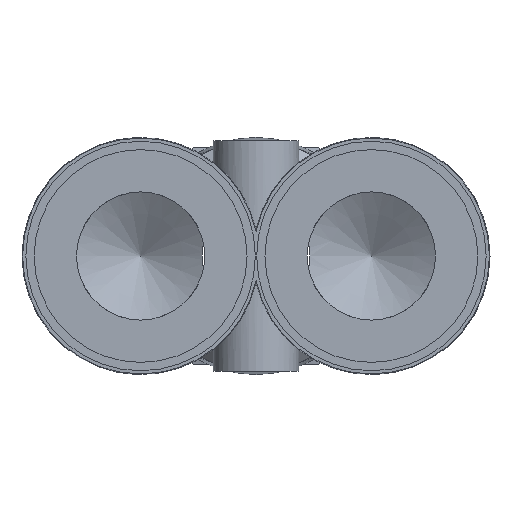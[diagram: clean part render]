
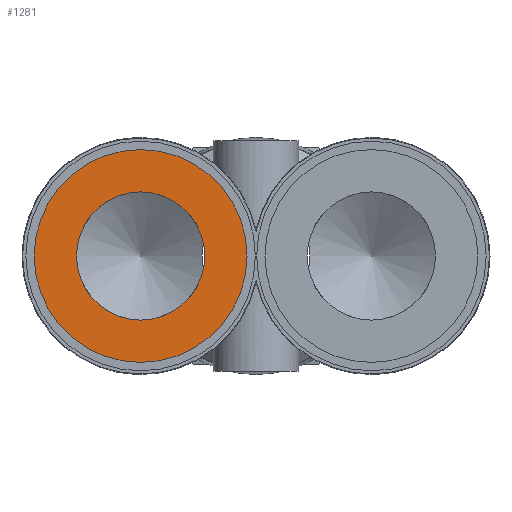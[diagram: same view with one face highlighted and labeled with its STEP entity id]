
A CAD part, front view. The second image highlights one B-rep face of the part: STEP entity #1281.
In plain terms, the highlighted planar face has unit normal (0, -1, 0).
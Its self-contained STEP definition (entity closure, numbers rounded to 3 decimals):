
#106=FACE_BOUND('',#244,.T.);
#124=PLANE('',#1418);
#169=FACE_OUTER_BOUND('',#243,.T.);
#243=EDGE_LOOP('',(#1016,#1017));
#244=EDGE_LOOP('',(#1018,#1019));
#426=CIRCLE('',#1407,5.);
#427=CIRCLE('',#1408,5.);
#432=CIRCLE('',#1419,8.3);
#433=CIRCLE('',#1420,8.3);
#553=VERTEX_POINT('',#2423);
#554=VERTEX_POINT('',#2424);
#560=VERTEX_POINT('',#2459);
#561=VERTEX_POINT('',#2460);
#717=EDGE_CURVE('',#553,#554,#426,.T.);
#718=EDGE_CURVE('',#554,#553,#427,.T.);
#730=EDGE_CURVE('',#560,#561,#432,.T.);
#731=EDGE_CURVE('',#561,#560,#433,.T.);
#1016=ORIENTED_EDGE('',*,*,#730,.F.);
#1017=ORIENTED_EDGE('',*,*,#731,.F.);
#1018=ORIENTED_EDGE('',*,*,#717,.T.);
#1019=ORIENTED_EDGE('',*,*,#718,.T.);
#1281=ADVANCED_FACE('',(#169,#106),#124,.F.);
#1407=AXIS2_PLACEMENT_3D('',#2425,#1661,#1662);
#1408=AXIS2_PLACEMENT_3D('',#2426,#1663,#1664);
#1418=AXIS2_PLACEMENT_3D('',#2458,#1688,#1689);
#1419=AXIS2_PLACEMENT_3D('',#2461,#1690,#1691);
#1420=AXIS2_PLACEMENT_3D('',#2462,#1692,#1693);
#1661=DIRECTION('center_axis',(0.,1.,0.));
#1662=DIRECTION('ref_axis',(1.,0.,0.));
#1663=DIRECTION('center_axis',(0.,1.,0.));
#1664=DIRECTION('ref_axis',(1.,0.,0.));
#1688=DIRECTION('center_axis',(0.,1.,0.));
#1689=DIRECTION('ref_axis',(0.,0.,-1.));
#1690=DIRECTION('center_axis',(0.,1.,0.));
#1691=DIRECTION('ref_axis',(-1.,0.,0.));
#1692=DIRECTION('center_axis',(0.,1.,0.));
#1693=DIRECTION('ref_axis',(-1.,0.,0.));
#2423=CARTESIAN_POINT('',(-4.,-18.3,0.));
#2424=CARTESIAN_POINT('',(-14.,-18.3,0.));
#2425=CARTESIAN_POINT('Origin',(-9.,-18.3,0.));
#2426=CARTESIAN_POINT('Origin',(-9.,-18.3,0.));
#2458=CARTESIAN_POINT('Origin',(-9.,-18.3,0.));
#2459=CARTESIAN_POINT('',(-17.3,-18.3,0.));
#2460=CARTESIAN_POINT('',(-0.7,-18.3,0.));
#2461=CARTESIAN_POINT('Origin',(-9.,-18.3,0.));
#2462=CARTESIAN_POINT('Origin',(-9.,-18.3,0.));
